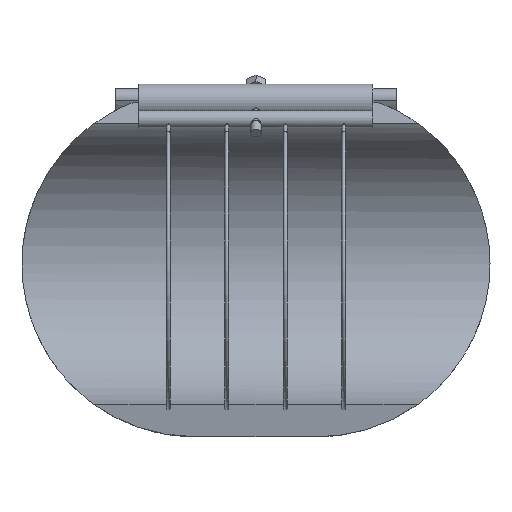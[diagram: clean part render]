
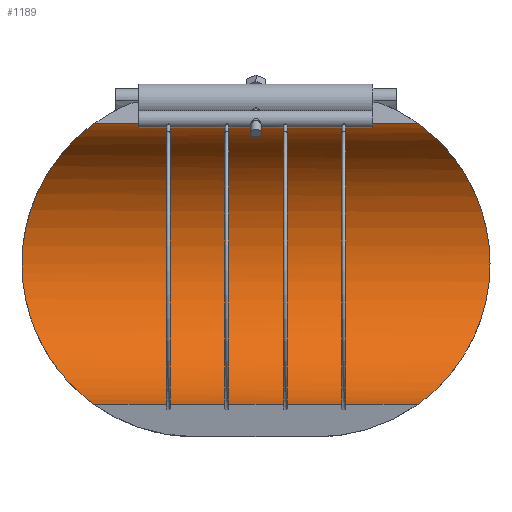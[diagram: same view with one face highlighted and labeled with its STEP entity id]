
A CAD part, front view. The second image highlights one B-rep face of the part: STEP entity #1189.
In plain terms, the highlighted cylindrical face has radius 80 mm (diameter 160 mm), a partial arc.
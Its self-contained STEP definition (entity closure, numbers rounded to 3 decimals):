
#125=FACE_OUTER_BOUND('',#203,.T.);
#203=EDGE_LOOP('',(#1060,#1061,#1062,#1063,#1064,#1065,#1066,#1067,#1068,
#1069));
#254=B_SPLINE_CURVE_WITH_KNOTS('',3,(#2674,#2675,#2676,#2677,#2678,#2679,
#2680,#2681,#2682,#2683,#2684,#2685,#2686,#2687,#2688,#2689,#2690,#2691),
 .UNSPECIFIED.,.F.,.F.,(4,2,2,2,2,2,2,2,4),(27.447,27.69,
29.348,31.006,32.664,34.26,35.856,
37.451,39.047),.UNSPECIFIED.);
#255=B_SPLINE_CURVE_WITH_KNOTS('',3,(#2692,#2693,#2694,#2695,#2696,#2697,
#2698,#2699,#2700,#2701,#2702,#2703,#2704,#2705,#2706,#2707,#2708,#2709),
 .UNSPECIFIED.,.F.,.F.,(4,2,2,2,2,2,2,2,4),(39.047,40.643,
42.239,43.835,45.43,47.088,48.747,
50.405,50.648),.UNSPECIFIED.);
#260=B_SPLINE_CURVE_WITH_KNOTS('',3,(#2821,#2822,#2823,#2824,#2825,#2826,
#2827,#2828,#2829,#2830,#2831,#2832,#2833,#2834,#2835,#2836,#2837,#2838),
 .UNSPECIFIED.,.F.,.F.,(4,2,2,2,2,2,2,2,4),(1.415,1.658,
3.316,4.975,6.633,8.228,9.824,
11.42,13.016),.UNSPECIFIED.);
#261=B_SPLINE_CURVE_WITH_KNOTS('',3,(#2840,#2841,#2842,#2843,#2844,#2845,
#2846,#2847,#2848,#2849,#2850,#2851,#2852,#2853,#2854,#2855,#2856,#2857),
 .UNSPECIFIED.,.F.,.F.,(4,2,2,2,2,2,2,2,4),(13.016,14.612,
16.207,17.803,19.399,21.057,22.715,
24.373,24.616),.UNSPECIFIED.);
#338=LINE('',#1979,#399);
#339=LINE('',#1982,#400);
#340=LINE('',#1985,#401);
#341=LINE('',#1987,#402);
#342=LINE('',#1988,#403);
#386=LINE('',#2899,#447);
#399=VECTOR('',#1394,10.);
#400=VECTOR('',#1397,10.);
#401=VECTOR('',#1400,10.);
#402=VECTOR('',#1403,10.);
#403=VECTOR('',#1404,10.);
#447=VECTOR('',#1648,10.);
#473=VERTEX_POINT('',#1967);
#475=VERTEX_POINT('',#1972);
#477=VERTEX_POINT('',#1976);
#478=VERTEX_POINT('',#1978);
#479=VERTEX_POINT('',#1981);
#480=VERTEX_POINT('',#1984);
#552=VERTEX_POINT('',#2671);
#553=VERTEX_POINT('',#2673);
#558=VERTEX_POINT('',#2820);
#559=VERTEX_POINT('',#2839);
#598=EDGE_CURVE('',#478,#477,#338,.T.);
#600=EDGE_CURVE('',#479,#478,#339,.T.);
#602=EDGE_CURVE('',#480,#479,#340,.T.);
#604=EDGE_CURVE('',#473,#480,#341,.T.);
#605=EDGE_CURVE('',#475,#473,#342,.T.);
#725=EDGE_CURVE('',#552,#553,#254,.T.);
#726=EDGE_CURVE('',#553,#477,#255,.T.);
#731=EDGE_CURVE('',#475,#558,#260,.T.);
#732=EDGE_CURVE('',#558,#559,#261,.T.);
#736=EDGE_CURVE('',#552,#559,#386,.T.);
#1060=ORIENTED_EDGE('',*,*,#731,.F.);
#1061=ORIENTED_EDGE('',*,*,#605,.T.);
#1062=ORIENTED_EDGE('',*,*,#604,.T.);
#1063=ORIENTED_EDGE('',*,*,#602,.T.);
#1064=ORIENTED_EDGE('',*,*,#600,.T.);
#1065=ORIENTED_EDGE('',*,*,#598,.T.);
#1066=ORIENTED_EDGE('',*,*,#726,.F.);
#1067=ORIENTED_EDGE('',*,*,#725,.F.);
#1068=ORIENTED_EDGE('',*,*,#736,.T.);
#1069=ORIENTED_EDGE('',*,*,#732,.F.);
#1130=CYLINDRICAL_SURFACE('',#1337,80.);
#1189=ADVANCED_FACE('',(#125),#1130,.F.);
#1337=AXIS2_PLACEMENT_3D('',#2898,#1646,#1647);
#1394=DIRECTION('',(1.,0.,0.));
#1397=DIRECTION('',(1.,0.,0.));
#1400=DIRECTION('',(1.,0.,0.));
#1403=DIRECTION('',(1.,0.,0.));
#1404=DIRECTION('',(1.,0.,0.));
#1646=DIRECTION('center_axis',(1.,0.,0.));
#1647=DIRECTION('ref_axis',(0.,1.,0.));
#1648=DIRECTION('',(-1.,0.,0.));
#1967=CARTESIAN_POINT('',(-49.313,13.892,-78.785));
#1972=CARTESIAN_POINT('',(-91.159,13.892,-78.785));
#1976=CARTESIAN_POINT('',(91.159,13.892,-78.785));
#1978=CARTESIAN_POINT('',(49.313,13.892,-78.785));
#1979=CARTESIAN_POINT('',(0.,13.892,-78.785));
#1981=CARTESIAN_POINT('',(16.438,13.892,-78.785));
#1982=CARTESIAN_POINT('',(0.,13.892,-78.785));
#1984=CARTESIAN_POINT('',(-16.438,13.892,-78.785));
#1985=CARTESIAN_POINT('',(0.,13.892,-78.785));
#1987=CARTESIAN_POINT('',(0.,13.892,-78.785));
#1988=CARTESIAN_POINT('',(0.,13.892,-78.785));
#2671=CARTESIAN_POINT('',(91.159,13.892,78.785));
#2673=CARTESIAN_POINT('',(131.5,80.,0.));
#2674=CARTESIAN_POINT('Ctrl Pts',(91.159,13.892,78.785));
#2675=CARTESIAN_POINT('Ctrl Pts',(91.349,14.669,78.648));
#2676=CARTESIAN_POINT('Ctrl Pts',(91.553,15.442,78.499));
#2677=CARTESIAN_POINT('Ctrl Pts',(93.254,21.46,77.254));
#2678=CARTESIAN_POINT('Ctrl Pts',(95.348,26.524,75.656));
#2679=CARTESIAN_POINT('Ctrl Pts',(100.11,36.148,71.559));
#2680=CARTESIAN_POINT('Ctrl Pts',(102.776,40.712,69.056));
#2681=CARTESIAN_POINT('Ctrl Pts',(108.132,49.18,63.305));
#2682=CARTESIAN_POINT('Ctrl Pts',(110.822,53.082,60.055));
#2683=CARTESIAN_POINT('Ctrl Pts',(115.725,59.923,53.214));
#2684=CARTESIAN_POINT('Ctrl Pts',(118.136,63.14,49.392));
#2685=CARTESIAN_POINT('Ctrl Pts',(122.573,68.916,40.948));
#2686=CARTESIAN_POINT('Ctrl Pts',(124.598,71.476,36.325));
#2687=CARTESIAN_POINT('Ctrl Pts',(127.95,75.662,26.526));
#2688=CARTESIAN_POINT('Ctrl Pts',(129.279,77.292,21.337));
#2689=CARTESIAN_POINT('Ctrl Pts',(131.054,79.461,10.734));
#2690=CARTESIAN_POINT('Ctrl Pts',(131.5,80.,5.319));
#2691=CARTESIAN_POINT('Ctrl Pts',(131.5,80.,0.));
#2692=CARTESIAN_POINT('Ctrl Pts',(131.5,80.,0.));
#2693=CARTESIAN_POINT('Ctrl Pts',(131.5,80.,-5.319));
#2694=CARTESIAN_POINT('Ctrl Pts',(131.054,79.461,-10.734));
#2695=CARTESIAN_POINT('Ctrl Pts',(129.279,77.292,-21.337));
#2696=CARTESIAN_POINT('Ctrl Pts',(127.95,75.662,-26.526));
#2697=CARTESIAN_POINT('Ctrl Pts',(124.598,71.476,-36.325));
#2698=CARTESIAN_POINT('Ctrl Pts',(122.573,68.916,-40.948));
#2699=CARTESIAN_POINT('Ctrl Pts',(118.136,63.14,-49.392));
#2700=CARTESIAN_POINT('Ctrl Pts',(115.725,59.923,-53.214));
#2701=CARTESIAN_POINT('Ctrl Pts',(110.822,53.082,-60.055));
#2702=CARTESIAN_POINT('Ctrl Pts',(108.132,49.18,-63.305));
#2703=CARTESIAN_POINT('Ctrl Pts',(102.776,40.712,-69.056));
#2704=CARTESIAN_POINT('Ctrl Pts',(100.11,36.148,-71.559));
#2705=CARTESIAN_POINT('Ctrl Pts',(95.348,26.524,-75.656));
#2706=CARTESIAN_POINT('Ctrl Pts',(93.254,21.46,-77.254));
#2707=CARTESIAN_POINT('Ctrl Pts',(91.553,15.442,-78.499));
#2708=CARTESIAN_POINT('Ctrl Pts',(91.349,14.669,-78.648));
#2709=CARTESIAN_POINT('Ctrl Pts',(91.159,13.892,-78.785));
#2820=CARTESIAN_POINT('',(-131.5,80.,0.));
#2821=CARTESIAN_POINT('Ctrl Pts',(-91.159,13.892,-78.785));
#2822=CARTESIAN_POINT('Ctrl Pts',(-91.349,14.669,-78.648));
#2823=CARTESIAN_POINT('Ctrl Pts',(-91.553,15.442,-78.499));
#2824=CARTESIAN_POINT('Ctrl Pts',(-93.254,21.46,-77.254));
#2825=CARTESIAN_POINT('Ctrl Pts',(-95.348,26.524,-75.656));
#2826=CARTESIAN_POINT('Ctrl Pts',(-100.11,36.148,-71.559));
#2827=CARTESIAN_POINT('Ctrl Pts',(-102.776,40.712,-69.056));
#2828=CARTESIAN_POINT('Ctrl Pts',(-108.132,49.18,-63.305));
#2829=CARTESIAN_POINT('Ctrl Pts',(-110.822,53.082,-60.055));
#2830=CARTESIAN_POINT('Ctrl Pts',(-115.725,59.923,-53.214));
#2831=CARTESIAN_POINT('Ctrl Pts',(-118.136,63.14,-49.392));
#2832=CARTESIAN_POINT('Ctrl Pts',(-122.573,68.916,-40.948));
#2833=CARTESIAN_POINT('Ctrl Pts',(-124.598,71.476,-36.325));
#2834=CARTESIAN_POINT('Ctrl Pts',(-127.95,75.662,-26.526));
#2835=CARTESIAN_POINT('Ctrl Pts',(-129.279,77.292,-21.337));
#2836=CARTESIAN_POINT('Ctrl Pts',(-131.054,79.461,-10.734));
#2837=CARTESIAN_POINT('Ctrl Pts',(-131.5,80.,-5.319));
#2838=CARTESIAN_POINT('Ctrl Pts',(-131.5,80.,0.));
#2839=CARTESIAN_POINT('',(-91.159,13.892,78.785));
#2840=CARTESIAN_POINT('Ctrl Pts',(-131.5,80.,0.));
#2841=CARTESIAN_POINT('Ctrl Pts',(-131.5,80.,5.319));
#2842=CARTESIAN_POINT('Ctrl Pts',(-131.054,79.461,10.734));
#2843=CARTESIAN_POINT('Ctrl Pts',(-129.279,77.292,21.337));
#2844=CARTESIAN_POINT('Ctrl Pts',(-127.95,75.662,26.526));
#2845=CARTESIAN_POINT('Ctrl Pts',(-124.598,71.476,36.325));
#2846=CARTESIAN_POINT('Ctrl Pts',(-122.573,68.916,40.948));
#2847=CARTESIAN_POINT('Ctrl Pts',(-118.136,63.14,49.392));
#2848=CARTESIAN_POINT('Ctrl Pts',(-115.725,59.923,53.214));
#2849=CARTESIAN_POINT('Ctrl Pts',(-110.822,53.082,60.055));
#2850=CARTESIAN_POINT('Ctrl Pts',(-108.132,49.18,63.305));
#2851=CARTESIAN_POINT('Ctrl Pts',(-102.776,40.712,69.056));
#2852=CARTESIAN_POINT('Ctrl Pts',(-100.11,36.148,71.559));
#2853=CARTESIAN_POINT('Ctrl Pts',(-95.348,26.524,75.656));
#2854=CARTESIAN_POINT('Ctrl Pts',(-93.254,21.46,77.254));
#2855=CARTESIAN_POINT('Ctrl Pts',(-91.553,15.442,78.499));
#2856=CARTESIAN_POINT('Ctrl Pts',(-91.349,14.669,78.648));
#2857=CARTESIAN_POINT('Ctrl Pts',(-91.159,13.892,78.785));
#2898=CARTESIAN_POINT('Origin',(0.,0.,0.));
#2899=CARTESIAN_POINT('',(0.,13.892,78.785));
